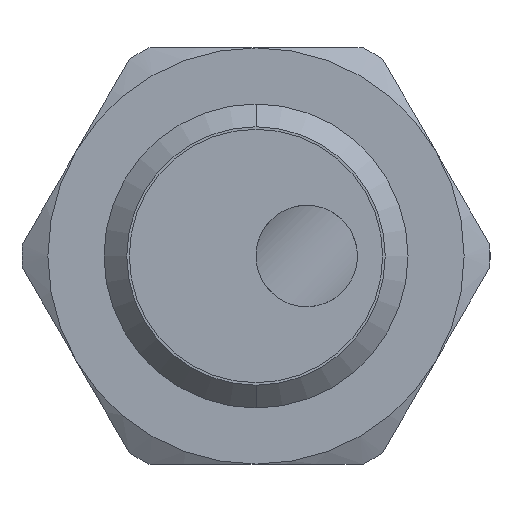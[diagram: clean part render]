
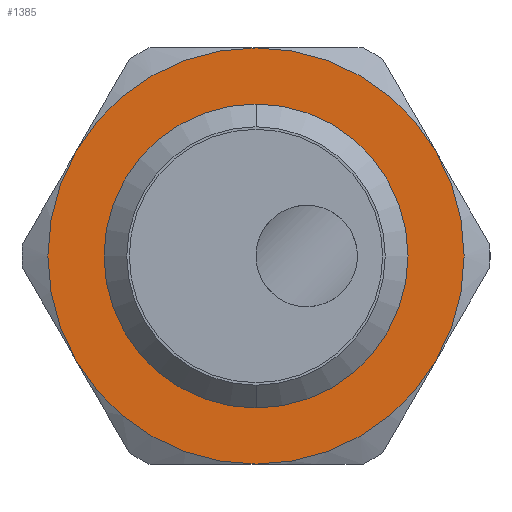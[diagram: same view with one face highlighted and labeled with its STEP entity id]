
A CAD part, left-side view. The second image highlights one B-rep face of the part: STEP entity #1385.
In plain terms, the highlighted planar face has unit normal (-1, 0, 0).
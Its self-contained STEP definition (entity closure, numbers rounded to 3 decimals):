
#44 = CARTESIAN_POINT ( 'NONE',  ( 17.5, 0., 0. ) ) ;
#49 = CARTESIAN_POINT ( 'NONE',  ( 17.5, 7.114, -4.108 ) ) ;
#57 = DIRECTION ( 'NONE',  ( 1., 0., 0. ) ) ;
#103 = CARTESIAN_POINT ( 'NONE',  ( 17.5, 0., 0. ) ) ;
#131 = DIRECTION ( 'NONE',  ( 1., 0., 0. ) ) ;
#146 = CIRCLE ( 'NONE', #1091, 8.215 ) ;
#182 = CARTESIAN_POINT ( 'NONE',  ( 17.5, 0., 0. ) ) ;
#192 = AXIS2_PLACEMENT_3D ( 'NONE', #182, #1042, #303 ) ;
#198 = VERTEX_POINT ( 'NONE', #676 ) ;
#212 = EDGE_CURVE ( 'NONE', #1201, #952, #1325, .T. ) ;
#230 = DIRECTION ( 'NONE',  ( 0., 0., 1. ) ) ;
#233 = CIRCLE ( 'NONE', #1495, 6. ) ;
#303 = DIRECTION ( 'NONE',  ( 0., 0., -1. ) ) ;
#354 = EDGE_CURVE ( 'NONE', #198, #525, #858, .T. ) ;
#369 = ORIENTED_EDGE ( 'NONE', *, *, #578, .F. ) ;
#404 = VERTEX_POINT ( 'NONE', #996 ) ;
#416 = CIRCLE ( 'NONE', #757, 8.215 ) ;
#420 = DIRECTION ( 'NONE',  ( 1., 0., 0. ) ) ;
#428 = CIRCLE ( 'NONE', #702, 8.215 ) ;
#442 = CARTESIAN_POINT ( 'NONE',  ( 17.5, 0., 0. ) ) ;
#450 = ORIENTED_EDGE ( 'NONE', *, *, #939, .F. ) ;
#463 = AXIS2_PLACEMENT_3D ( 'NONE', #442, #1296, #577 ) ;
#468 = ORIENTED_EDGE ( 'NONE', *, *, #830, .T. ) ;
#475 = CARTESIAN_POINT ( 'NONE',  ( 17.5, 0., 8.215 ) ) ;
#498 = CARTESIAN_POINT ( 'NONE',  ( 17.5, -7.114, -4.108 ) ) ;
#500 = FACE_OUTER_BOUND ( 'NONE', #540, .T. ) ;
#525 = VERTEX_POINT ( 'NONE', #475 ) ;
#540 = EDGE_LOOP ( 'NONE', ( #905, #369, #1184, #955, #450, #762 ) ) ;
#577 = DIRECTION ( 'NONE',  ( 0., 0., -1. ) ) ;
#578 = EDGE_CURVE ( 'NONE', #1421, #198, #428, .T. ) ;
#608 = DIRECTION ( 'NONE',  ( 1., 0., 0. ) ) ;
#611 = VERTEX_POINT ( 'NONE', #498 ) ;
#615 = CARTESIAN_POINT ( 'NONE',  ( 17.5, 0., 0. ) ) ;
#676 = CARTESIAN_POINT ( 'NONE',  ( 17.5, 7.114, 4.108 ) ) ;
#702 = AXIS2_PLACEMENT_3D ( 'NONE', #615, #1471, #738 ) ;
#718 = EDGE_CURVE ( 'NONE', #611, #1430, #1003, .T. ) ;
#730 = CARTESIAN_POINT ( 'NONE',  ( 17.5, 0., 0. ) ) ;
#738 = DIRECTION ( 'NONE',  ( 0., 0., -1. ) ) ;
#754 = AXIS2_PLACEMENT_3D ( 'NONE', #103, #962, #230 ) ;
#757 = AXIS2_PLACEMENT_3D ( 'NONE', #809, #57, #922 ) ;
#762 = ORIENTED_EDGE ( 'NONE', *, *, #1014, .F. ) ;
#809 = CARTESIAN_POINT ( 'NONE',  ( 17.5, 0., 0. ) ) ;
#830 = EDGE_CURVE ( 'NONE', #952, #1201, #233, .T. ) ;
#852 = DIRECTION ( 'NONE',  ( 0., 0., 1. ) ) ;
#858 = CIRCLE ( 'NONE', #1235, 8.215 ) ;
#874 = CARTESIAN_POINT ( 'NONE',  ( 17.5, 0., 0. ) ) ;
#887 = EDGE_LOOP ( 'NONE', ( #468, #1398 ) ) ;
#905 = ORIENTED_EDGE ( 'NONE', *, *, #354, .F. ) ;
#919 = CARTESIAN_POINT ( 'NONE',  ( 17.5, 0., 6. ) ) ;
#922 = DIRECTION ( 'NONE',  ( 0., 0., -1. ) ) ;
#939 = EDGE_CURVE ( 'NONE', #404, #611, #1024, .T. ) ;
#952 = VERTEX_POINT ( 'NONE', #919 ) ;
#955 = ORIENTED_EDGE ( 'NONE', *, *, #718, .F. ) ;
#962 = DIRECTION ( 'NONE',  ( 1., 0., 0. ) ) ;
#988 = DIRECTION ( 'NONE',  ( 0., 0., -1. ) ) ;
#994 = CARTESIAN_POINT ( 'NONE',  ( 17.5, 0., -6. ) ) ;
#996 = CARTESIAN_POINT ( 'NONE',  ( 17.5, -7.114, 4.108 ) ) ;
#1003 = CIRCLE ( 'NONE', #463, 8.215 ) ;
#1014 = EDGE_CURVE ( 'NONE', #525, #404, #146, .T. ) ;
#1024 = CIRCLE ( 'NONE', #192, 8.215 ) ;
#1042 = DIRECTION ( 'NONE',  ( 1., 0., 0. ) ) ;
#1049 = CARTESIAN_POINT ( 'NONE',  ( 17.5, 0., -8.215 ) ) ;
#1091 = AXIS2_PLACEMENT_3D ( 'NONE', #1332, #608, #1464 ) ;
#1107 = FACE_BOUND ( 'NONE', #887, .T. ) ;
#1184 = ORIENTED_EDGE ( 'NONE', *, *, #1404, .F. ) ;
#1201 = VERTEX_POINT ( 'NONE', #994 ) ;
#1235 = AXIS2_PLACEMENT_3D ( 'NONE', #874, #131, #988 ) ;
#1274 = DIRECTION ( 'NONE',  ( 0., 1., 0. ) ) ;
#1296 = DIRECTION ( 'NONE',  ( 1., 0., 0. ) ) ;
#1304 = AXIS2_PLACEMENT_3D ( 'NONE', #44, #420, #1274 ) ;
#1325 = CIRCLE ( 'NONE', #754, 6. ) ;
#1332 = CARTESIAN_POINT ( 'NONE',  ( 17.5, 0., 0. ) ) ;
#1385 = ADVANCED_FACE ( 'NONE', ( #1107, #500 ), #1520, .F. ) ;
#1398 = ORIENTED_EDGE ( 'NONE', *, *, #212, .T. ) ;
#1404 = EDGE_CURVE ( 'NONE', #1430, #1421, #416, .T. ) ;
#1421 = VERTEX_POINT ( 'NONE', #49 ) ;
#1430 = VERTEX_POINT ( 'NONE', #1049 ) ;
#1464 = DIRECTION ( 'NONE',  ( 0., 0., -1. ) ) ;
#1471 = DIRECTION ( 'NONE',  ( 1., 0., 0. ) ) ;
#1495 = AXIS2_PLACEMENT_3D ( 'NONE', #730, #1567, #852 ) ;
#1520 = PLANE ( 'NONE',  #1304 ) ;
#1567 = DIRECTION ( 'NONE',  ( 1., 0., 0. ) ) ;
